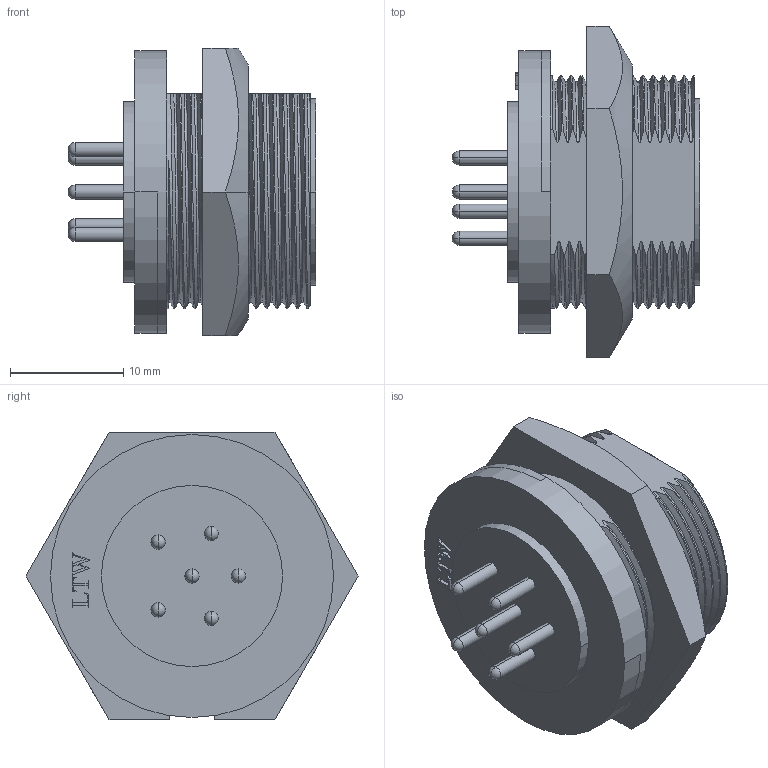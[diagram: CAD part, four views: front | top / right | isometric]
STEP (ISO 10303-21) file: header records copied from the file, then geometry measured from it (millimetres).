
FILE_DESCRIPTION((''),'2;1');
FILE_NAME('CB-06PMMP-SC7001_ASM','2021-08-12T',('L100003'),(''),'PRO/ENGINEER BY PARAMETRIC TECHNOLOGY CORPORATION, 2017170','PRO/ENGINEER BY PARAMETRIC TECHNOLOGY CORPORATION, 2017170','');
FILE_SCHEMA(('CONFIG_CONTROL_DESIGN'));
Length unit declared in the file: millimetre
Products named in the file (2): _CB-06PMMP-SC7001; CB-06PMMP-SC7001_ASM
Assembly tree (1 placements, depth 2):
  CB-06PMMP-SC7001_ASM
    _CB-06PMMP-SC7001
Bounding box: 21.9 x 29.33 x 25.4 mm (x, y, z)
Volume: 5119.3 mm3; surface area: 4041 mm2
Topology: 1 solids, 1 shells, 343 faces, 984 edges, 631 vertices
Faces by surface type: plane 119, extrusion 76, bspline 66, cylinder 49, sphere 25, cone 8
Entity records: 21239 total; most frequent: CARTESIAN_POINT 10518, ORIENTED_EDGE 1914, DIRECTION 1170, EDGE_CURVE 957, VERTEX_POINT 631, VECTOR 530, B_SPLINE_CURVE_WITH_KNOTS 463, LINE 454
